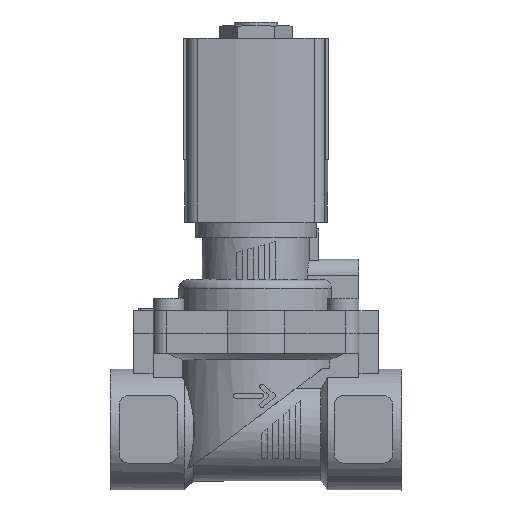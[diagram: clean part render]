
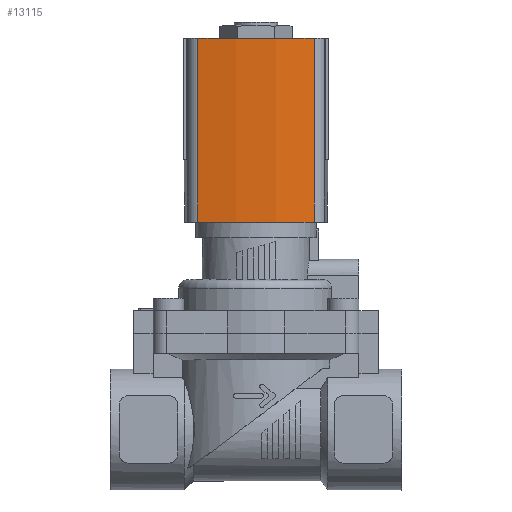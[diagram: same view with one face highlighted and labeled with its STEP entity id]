
A CAD part, top view. The second image highlights one B-rep face of the part: STEP entity #13115.
In plain terms, the highlighted cylindrical face has radius 60 mm (diameter 120 mm), a partial arc.
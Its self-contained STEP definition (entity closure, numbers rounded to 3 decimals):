
#237=CYLINDRICAL_SURFACE('',#14007,60.);
#1269=LINE('',#20055,#2383);
#1270=LINE('',#20059,#2384);
#2383=VECTOR('',#16638,1000.);
#2384=VECTOR('',#16643,1000.);
#4836=ORIENTED_EDGE('',*,*,#6897,.T.);
#4837=ORIENTED_EDGE('',*,*,#6898,.F.);
#4838=ORIENTED_EDGE('',*,*,#6183,.F.);
#4839=ORIENTED_EDGE('',*,*,#6896,.T.);
#6183=EDGE_CURVE('',#7470,#7471,#8213,.T.);
#6896=EDGE_CURVE('',#7470,#7976,#1269,.T.);
#6897=EDGE_CURVE('',#7976,#7977,#8307,.T.);
#6898=EDGE_CURVE('',#7471,#7977,#1270,.T.);
#7470=VERTEX_POINT('',#18709);
#7471=VERTEX_POINT('',#18711);
#7976=VERTEX_POINT('',#20054);
#7977=VERTEX_POINT('',#20058);
#8213=CIRCLE('',#13787,60.);
#8307=CIRCLE('',#14008,60.);
#8753=EDGE_LOOP('',(#4836,#4837,#4838,#4839));
#9354=FACE_BOUND('',#8753,.T.);
#13115=ADVANCED_FACE('',(#9354),#237,.T.);
#13787=AXIS2_PLACEMENT_3D('',#18710,#15579,#15580);
#14007=AXIS2_PLACEMENT_3D('',#20056,#16639,#16640);
#14008=AXIS2_PLACEMENT_3D('',#20057,#16641,#16642);
#15579=DIRECTION('',(0.,1.,0.));
#15580=DIRECTION('',(1.,0.,0.));
#16638=DIRECTION('',(0.,-1.,0.));
#16639=DIRECTION('',(0.,-1.,0.));
#16640=DIRECTION('',(0.,0.,-1.));
#16641=DIRECTION('',(0.,1.,0.));
#16642=DIRECTION('',(1.,0.,0.));
#16643=DIRECTION('',(0.,-1.,0.));
#18709=CARTESIAN_POINT('',(19.078,15.,12.986));
#18710=CARTESIAN_POINT('',(-39.5,15.,0.));
#18711=CARTESIAN_POINT('',(19.078,15.,-12.986));
#20054=CARTESIAN_POINT('',(19.078,-26.,12.986));
#20055=CARTESIAN_POINT('',(19.078,15.,12.986));
#20056=CARTESIAN_POINT('',(-39.5,15.,0.));
#20057=CARTESIAN_POINT('',(-39.5,-26.,0.));
#20058=CARTESIAN_POINT('',(19.078,-26.,-12.986));
#20059=CARTESIAN_POINT('',(19.078,15.,-12.986));
